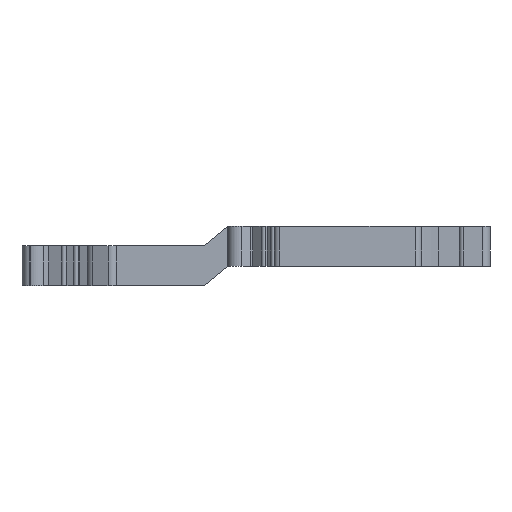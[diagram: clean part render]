
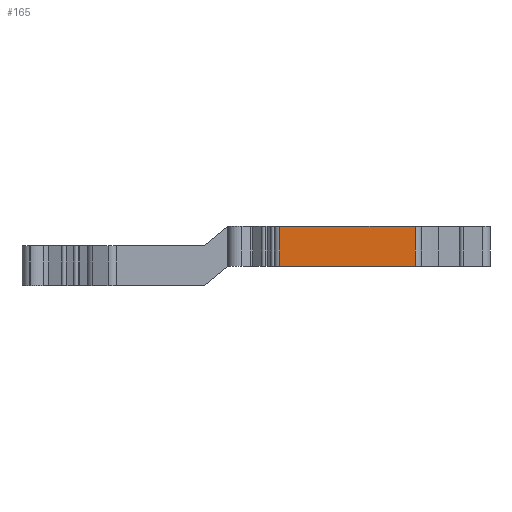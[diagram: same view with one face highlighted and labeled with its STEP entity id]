
A CAD part, left-side view. The second image highlights one B-rep face of the part: STEP entity #165.
In plain terms, the highlighted planar face has unit normal (-1, 0, 0).
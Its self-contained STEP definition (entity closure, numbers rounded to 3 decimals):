
#165=ADVANCED_FACE('',(#464),#333,.T.);
#333=PLANE('',#3790);
#464=FACE_OUTER_BOUND('',#648,.T.);
#648=EDGE_LOOP('',(#1438,#1439,#1440,#1441));
#1438=ORIENTED_EDGE('',*,*,#2688,.F.);
#1439=ORIENTED_EDGE('',*,*,#2651,.F.);
#1440=ORIENTED_EDGE('',*,*,#2689,.T.);
#1441=ORIENTED_EDGE('',*,*,#2316,.T.);
#1968=VERTEX_POINT('',#4980);
#1969=VERTEX_POINT('',#4982);
#2269=VERTEX_POINT('',#5650);
#2270=VERTEX_POINT('',#5652);
#2316=EDGE_CURVE('',#1969,#1968,#2836,.T.);
#2651=EDGE_CURVE('',#2269,#2270,#3066,.T.);
#2688=EDGE_CURVE('',#2270,#1968,#3098,.T.);
#2689=EDGE_CURVE('',#2269,#1969,#3099,.T.);
#2836=LINE('',#4981,#3236);
#3066=LINE('',#5651,#3466);
#3098=LINE('',#5724,#3498);
#3099=LINE('',#5726,#3499);
#3236=VECTOR('',#3953,1.);
#3466=VECTOR('',#4461,1.);
#3498=VECTOR('',#4539,1.);
#3499=VECTOR('',#4542,1.);
#3790=AXIS2_PLACEMENT_3D('',#5727,#4543,#4544);
#3953=DIRECTION('',(0.,1.,0.));
#4461=DIRECTION('',(0.,1.,0.));
#4539=DIRECTION('',(0.,0.,1.));
#4542=DIRECTION('',(0.,0.,1.));
#4543=DIRECTION('',(-1.,0.,0.));
#4544=DIRECTION('',(0.,1.,0.));
#4980=CARTESIAN_POINT('',(-19.888,13.87,15.4));
#4981=CARTESIAN_POINT('',(-19.888,13.87,15.4));
#4982=CARTESIAN_POINT('',(-19.888,-3.801,15.4));
#5650=CARTESIAN_POINT('',(-19.888,-3.801,10.2));
#5651=CARTESIAN_POINT('',(-19.888,13.87,10.2));
#5652=CARTESIAN_POINT('',(-19.888,13.87,10.2));
#5724=CARTESIAN_POINT('',(-19.888,13.87,15.4));
#5726=CARTESIAN_POINT('',(-19.888,-3.801,15.4));
#5727=CARTESIAN_POINT('',(-19.888,13.87,15.4));
